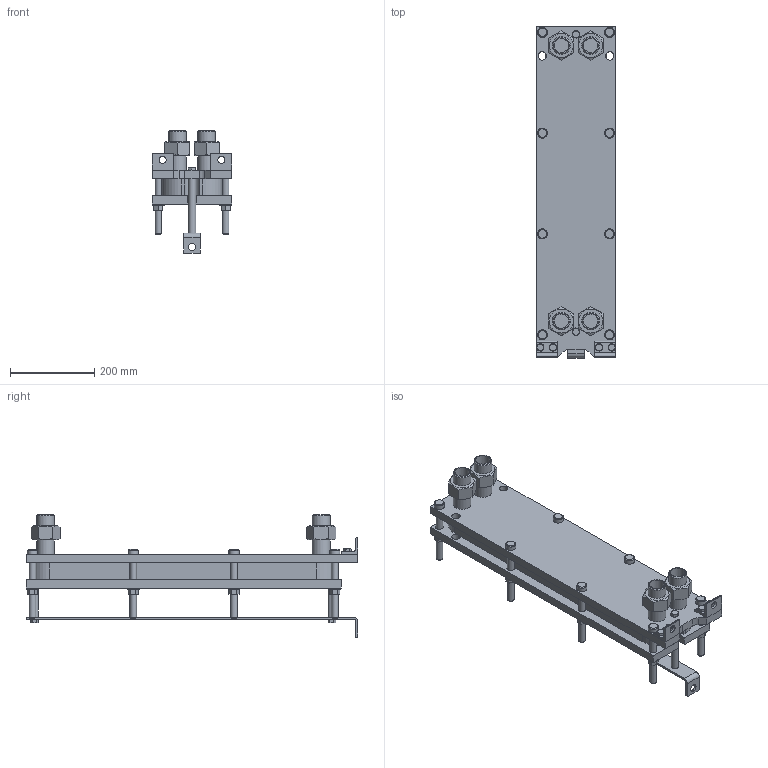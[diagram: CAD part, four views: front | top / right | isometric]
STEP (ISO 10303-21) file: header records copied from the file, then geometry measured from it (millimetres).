
FILE_DESCRIPTION(/* description */ (''),/* implementation_level */ '2;1');
FILE_NAME(/* name */ 'C:\Users\zhuro\Desktop\ENCO\TO\ЭН-008\ЭН-0,5-008-13-1.stp',/* time_stamp */ '2022-06-06T10:45:58+03:00',/* author */ ('zhuro'),/* organization */ (''),/* preprocessor_version */ 'ST-DEVELOPER v18.1',/* originating_system */ 'Autodesk Inventor 2022',/* authorisation */ '');
FILE_SCHEMA (('AUTOMOTIVE_DESIGN { 1 0 10303 214 3 1 1 }'));
Length unit declared in the file: millimetre
Products named in the file (1): ЭН-0,5-008-13-1
Bounding box: 190 x 790 x 291.4 mm (x, y, z)
Volume: 10712321.7 mm3; surface area: 1285606.5 mm2
Topology: 40 solids, 40 shells, 428 faces, 924 edges, 606 vertices
Faces by surface type: plane 273, cylinder 109, cone 40, torus 6
Full cylindrical faces by diameter (mm): 12 x6, 14 x2, 16 x20, 17 x8, 18 x19, 20 x5, 24 x8, 28 x8, 34.3 x8, 42.3 x8
Entity records: 15843 total; most frequent: CARTESIAN_POINT 5991, DIRECTION 1984, ORIENTED_EDGE 1848, EDGE_CURVE 924, AXIS2_PLACEMENT_3D 715, VERTEX_POINT 606, LINE 554, VECTOR 554
